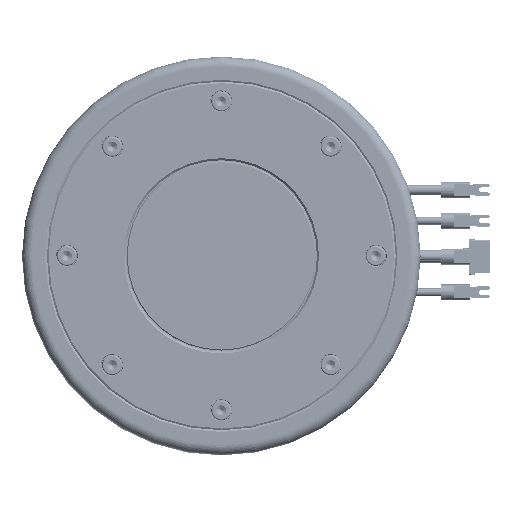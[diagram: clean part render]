
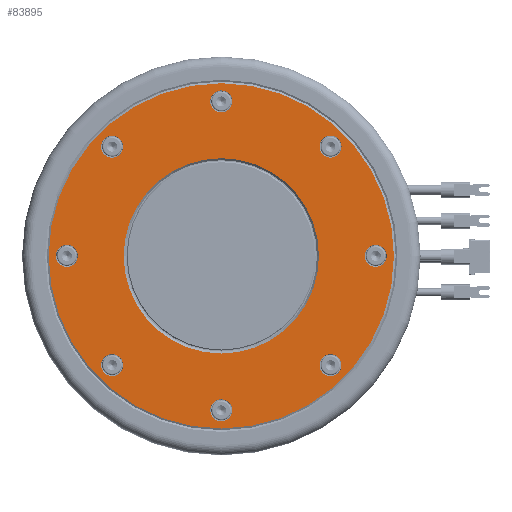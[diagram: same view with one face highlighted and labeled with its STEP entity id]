
A CAD part, top view. The second image highlights one B-rep face of the part: STEP entity #83895.
In plain terms, the highlighted planar face has unit normal (0, 0, 1) as drawn and (-1, 0, 0) by its records, which use the part's own axes.
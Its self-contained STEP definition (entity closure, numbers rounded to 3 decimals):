
#82022=CARTESIAN_POINT('',(0.,0.,0.));
#82023=DIRECTION('',(-1.,0.,0.));
#82024=DIRECTION('',(0.,0.,-1.));
#82025=AXIS2_PLACEMENT_3D('',#82022,#82023,#82024);
#82027=CARTESIAN_POINT('',(0.,0.,0.));
#82028=DIRECTION('',(-1.,0.,0.));
#82029=DIRECTION('',(0.,0.,1.));
#82030=AXIS2_PLACEMENT_3D('',#82027,#82028,#82029);
#82032=CARTESIAN_POINT('',(0.,54.801,54.801));
#82033=DIRECTION('',(1.,0.,0.));
#82034=DIRECTION('',(0.,0.,-1.));
#82035=AXIS2_PLACEMENT_3D('',#82032,#82033,#82034);
#82037=CARTESIAN_POINT('',(0.,54.801,54.801));
#82038=DIRECTION('',(1.,0.,0.));
#82039=DIRECTION('',(0.,0.,1.));
#82040=AXIS2_PLACEMENT_3D('',#82037,#82038,#82039);
#82042=CARTESIAN_POINT('',(0.,0.,77.5));
#82043=DIRECTION('',(1.,0.,0.));
#82044=DIRECTION('',(0.,0.,-1.));
#82045=AXIS2_PLACEMENT_3D('',#82042,#82043,#82044);
#82047=CARTESIAN_POINT('',(0.,0.,77.5));
#82048=DIRECTION('',(1.,0.,0.));
#82049=DIRECTION('',(0.,0.,1.));
#82050=AXIS2_PLACEMENT_3D('',#82047,#82048,#82049);
#82052=CARTESIAN_POINT('',(0.,-54.801,54.801));
#82053=DIRECTION('',(1.,0.,0.));
#82054=DIRECTION('',(0.,0.,-1.));
#82055=AXIS2_PLACEMENT_3D('',#82052,#82053,#82054);
#82057=CARTESIAN_POINT('',(0.,-54.801,54.801));
#82058=DIRECTION('',(1.,0.,0.));
#82059=DIRECTION('',(0.,0.,1.));
#82060=AXIS2_PLACEMENT_3D('',#82057,#82058,#82059);
#82062=CARTESIAN_POINT('',(0.,-77.5,0.));
#82063=DIRECTION('',(1.,0.,0.));
#82064=DIRECTION('',(0.,0.,-1.));
#82065=AXIS2_PLACEMENT_3D('',#82062,#82063,#82064);
#82067=CARTESIAN_POINT('',(0.,-77.5,0.));
#82068=DIRECTION('',(1.,0.,0.));
#82069=DIRECTION('',(0.,0.,1.));
#82070=AXIS2_PLACEMENT_3D('',#82067,#82068,#82069);
#82072=CARTESIAN_POINT('',(0.,-54.801,-54.801));
#82073=DIRECTION('',(1.,0.,0.));
#82074=DIRECTION('',(0.,0.,-1.));
#82075=AXIS2_PLACEMENT_3D('',#82072,#82073,#82074);
#82077=CARTESIAN_POINT('',(0.,-54.801,-54.801));
#82078=DIRECTION('',(1.,0.,0.));
#82079=DIRECTION('',(0.,0.,1.));
#82080=AXIS2_PLACEMENT_3D('',#82077,#82078,#82079);
#82082=CARTESIAN_POINT('',(0.,0.,-77.5));
#82083=DIRECTION('',(1.,0.,0.));
#82084=DIRECTION('',(0.,0.,-1.));
#82085=AXIS2_PLACEMENT_3D('',#82082,#82083,#82084);
#82087=CARTESIAN_POINT('',(0.,0.,-77.5));
#82088=DIRECTION('',(1.,0.,0.));
#82089=DIRECTION('',(0.,0.,1.));
#82090=AXIS2_PLACEMENT_3D('',#82087,#82088,#82089);
#82092=CARTESIAN_POINT('',(0.,54.801,-54.801));
#82093=DIRECTION('',(1.,0.,0.));
#82094=DIRECTION('',(0.,0.,-1.));
#82095=AXIS2_PLACEMENT_3D('',#82092,#82093,#82094);
#82097=CARTESIAN_POINT('',(0.,54.801,-54.801));
#82098=DIRECTION('',(1.,0.,0.));
#82099=DIRECTION('',(0.,0.,1.));
#82100=AXIS2_PLACEMENT_3D('',#82097,#82098,#82099);
#82102=CARTESIAN_POINT('',(0.,0.,0.));
#82103=DIRECTION('',(1.,0.,0.));
#82104=DIRECTION('',(0.,0.,-1.));
#82105=AXIS2_PLACEMENT_3D('',#82102,#82103,#82104);
#82107=CARTESIAN_POINT('',(0.,0.,0.));
#82108=DIRECTION('',(1.,0.,0.));
#82109=DIRECTION('',(0.,0.,1.));
#82110=AXIS2_PLACEMENT_3D('',#82107,#82108,#82109);
#82112=CARTESIAN_POINT('',(0.,77.5,0.));
#82113=DIRECTION('',(1.,0.,0.));
#82114=DIRECTION('',(0.,0.,-1.));
#82115=AXIS2_PLACEMENT_3D('',#82112,#82113,#82114);
#82117=CARTESIAN_POINT('',(0.,77.5,0.));
#82118=DIRECTION('',(1.,0.,0.));
#82119=DIRECTION('',(0.,0.,1.));
#82120=AXIS2_PLACEMENT_3D('',#82117,#82118,#82119);
#83349=CARTESIAN_POINT('',(0.,-54.801,-49.276));
#83351=VERTEX_POINT('',#83349);
#83382=CARTESIAN_POINT('',(0.,0.,49.));
#83383=CARTESIAN_POINT('',(0.,0.,-49.));
#83384=VERTEX_POINT('',#83382);
#83385=VERTEX_POINT('',#83383);
#83397=CARTESIAN_POINT('',(0.,0.,-71.975));
#83399=VERTEX_POINT('',#83397);
#83410=CARTESIAN_POINT('',(0.,54.801,60.326));
#83411=CARTESIAN_POINT('',(0.,54.801,49.276));
#83412=VERTEX_POINT('',#83410);
#83413=VERTEX_POINT('',#83411);
#83472=CARTESIAN_POINT('',(0.,77.5,-5.525));
#83473=VERTEX_POINT('',#83472);
#83486=CARTESIAN_POINT('',(0.,-77.5,5.525));
#83487=CARTESIAN_POINT('',(0.,-77.5,-5.525));
#83488=VERTEX_POINT('',#83486);
#83489=VERTEX_POINT('',#83487);
#83500=CARTESIAN_POINT('',(0.,54.801,-60.326));
#83501=CARTESIAN_POINT('',(0.,54.801,-49.276));
#83502=VERTEX_POINT('',#83500);
#83503=VERTEX_POINT('',#83501);
#83524=CARTESIAN_POINT('',(0.,0.,
86.634));
#83525=CARTESIAN_POINT('',(0.,0.,
-86.634));
#83526=VERTEX_POINT('',#83524);
#83527=VERTEX_POINT('',#83525);
#83539=CARTESIAN_POINT('',(0.,0.,83.025));
#83541=VERTEX_POINT('',#83539);
#83550=CARTESIAN_POINT('',(0.,77.5,5.525));
#83551=VERTEX_POINT('',#83550);
#83588=CARTESIAN_POINT('',(0.,0.,-83.025));
#83589=VERTEX_POINT('',#83588);
#83606=CARTESIAN_POINT('',(0.,0.,71.975));
#83607=VERTEX_POINT('',#83606);
#83626=CARTESIAN_POINT('',(0.,-54.801,49.276));
#83627=VERTEX_POINT('',#83626);
#83636=CARTESIAN_POINT('',(0.,-54.801,-60.326));
#83637=VERTEX_POINT('',#83636);
#83654=CARTESIAN_POINT('',(0.,-54.801,60.326));
#83655=VERTEX_POINT('',#83654);
#83831=CARTESIAN_POINT('',(0.,49.,0.));
#83832=DIRECTION('',(1.,0.,0.));
#83833=DIRECTION('',(0.,0.,-1.));
#83834=AXIS2_PLACEMENT_3D('',#83831,#83832,#83833);
#83835=PLANE('',#83834);
#83837=ORIENTED_EDGE('',*,*,#83836,.F.);
#83839=ORIENTED_EDGE('',*,*,#83838,.F.);
#83840=EDGE_LOOP('',(#83837,#83839));
#83841=FACE_OUTER_BOUND('',#83840,.F.);
#83843=ORIENTED_EDGE('',*,*,#83842,.F.);
#83845=ORIENTED_EDGE('',*,*,#83844,.F.);
#83846=EDGE_LOOP('',(#83843,#83845));
#83847=FACE_BOUND('',#83846,.F.);
#83849=ORIENTED_EDGE('',*,*,#83848,.F.);
#83851=ORIENTED_EDGE('',*,*,#83850,.F.);
#83852=EDGE_LOOP('',(#83849,#83851));
#83853=FACE_BOUND('',#83852,.F.);
#83855=ORIENTED_EDGE('',*,*,#83854,.F.);
#83857=ORIENTED_EDGE('',*,*,#83856,.F.);
#83858=EDGE_LOOP('',(#83855,#83857));
#83859=FACE_BOUND('',#83858,.F.);
#83861=ORIENTED_EDGE('',*,*,#83860,.F.);
#83863=ORIENTED_EDGE('',*,*,#83862,.F.);
#83864=EDGE_LOOP('',(#83861,#83863));
#83865=FACE_BOUND('',#83864,.F.);
#83867=ORIENTED_EDGE('',*,*,#83866,.F.);
#83869=ORIENTED_EDGE('',*,*,#83868,.F.);
#83870=EDGE_LOOP('',(#83867,#83869));
#83871=FACE_BOUND('',#83870,.F.);
#83873=ORIENTED_EDGE('',*,*,#83872,.F.);
#83875=ORIENTED_EDGE('',*,*,#83874,.F.);
#83876=EDGE_LOOP('',(#83873,#83875));
#83877=FACE_BOUND('',#83876,.F.);
#83878=ORIENTED_EDGE('',*,*,#83821,.F.);
#83880=ORIENTED_EDGE('',*,*,#83879,.F.);
#83881=EDGE_LOOP('',(#83878,#83880));
#83882=FACE_BOUND('',#83881,.F.);
#83884=ORIENTED_EDGE('',*,*,#83883,.F.);
#83886=ORIENTED_EDGE('',*,*,#83885,.F.);
#83887=EDGE_LOOP('',(#83884,#83886));
#83888=FACE_BOUND('',#83887,.F.);
#83890=ORIENTED_EDGE('',*,*,#83889,.F.);
#83892=ORIENTED_EDGE('',*,*,#83891,.F.);
#83893=EDGE_LOOP('',(#83890,#83892));
#83894=FACE_BOUND('',#83893,.F.);
#83895=ADVANCED_FACE('',(#83841,#83847,#83853,#83859,#83865,#83871,#83877,
#83882,#83888,#83894),#83835,.F.);
#82026=CIRCLE('',#82025,86.634);
#82031=CIRCLE('',#82030,86.634);
#82036=CIRCLE('',#82035,5.525);
#82041=CIRCLE('',#82040,5.525);
#82046=CIRCLE('',#82045,5.525);
#82051=CIRCLE('',#82050,5.525);
#82056=CIRCLE('',#82055,5.525);
#82061=CIRCLE('',#82060,5.525);
#82066=CIRCLE('',#82065,5.525);
#82071=CIRCLE('',#82070,5.525);
#82076=CIRCLE('',#82075,5.525);
#82081=CIRCLE('',#82080,5.525);
#82086=CIRCLE('',#82085,5.525);
#82091=CIRCLE('',#82090,5.525);
#82096=CIRCLE('',#82095,5.525);
#82101=CIRCLE('',#82100,5.525);
#82106=CIRCLE('',#82105,49.);
#82111=CIRCLE('',#82110,49.);
#82116=CIRCLE('',#82115,5.525);
#82121=CIRCLE('',#82120,5.525);
#83821=EDGE_CURVE('',#83502,#83503,#82096,.T.);
#83836=EDGE_CURVE('',#83527,#83526,#82026,.T.);
#83838=EDGE_CURVE('',#83526,#83527,#82031,.T.);
#83842=EDGE_CURVE('',#83413,#83412,#82036,.T.);
#83844=EDGE_CURVE('',#83412,#83413,#82041,.T.);
#83848=EDGE_CURVE('',#83607,#83541,#82046,.T.);
#83850=EDGE_CURVE('',#83541,#83607,#82051,.T.);
#83854=EDGE_CURVE('',#83627,#83655,#82056,.T.);
#83856=EDGE_CURVE('',#83655,#83627,#82061,.T.);
#83860=EDGE_CURVE('',#83489,#83488,#82066,.T.);
#83862=EDGE_CURVE('',#83488,#83489,#82071,.T.);
#83866=EDGE_CURVE('',#83637,#83351,#82076,.T.);
#83868=EDGE_CURVE('',#83351,#83637,#82081,.T.);
#83872=EDGE_CURVE('',#83589,#83399,#82086,.T.);
#83874=EDGE_CURVE('',#83399,#83589,#82091,.T.);
#83879=EDGE_CURVE('',#83503,#83502,#82101,.T.);
#83883=EDGE_CURVE('',#83385,#83384,#82106,.T.);
#83885=EDGE_CURVE('',#83384,#83385,#82111,.T.);
#83889=EDGE_CURVE('',#83473,#83551,#82116,.T.);
#83891=EDGE_CURVE('',#83551,#83473,#82121,.T.);
